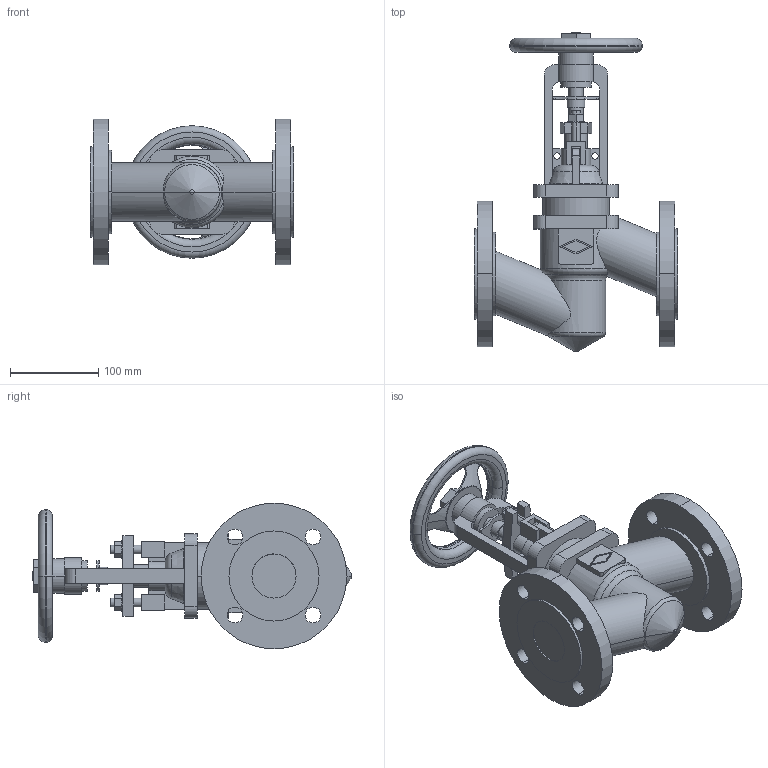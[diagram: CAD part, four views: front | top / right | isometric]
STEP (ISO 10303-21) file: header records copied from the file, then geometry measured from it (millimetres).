
FILE_DESCRIPTION(('OneSpaceDesigner STEP Export'),'2;1');
FILE_NAME('c000004283.stp','2010-05-05T10:04:34',(''),(''),'OneSpace Designer STEP processor for AP214 (Solid Model)','OneSpace Modeling 15.50B 03-Nov-2007 (C) CoCreate Software GmbH','');
FILE_SCHEMA(('AUTOMOTIVE_DESIGN { 1 0 10303 214 1 1 1 1 }'));
Length unit declared in the file: millimetre
Products named in the file (1): 1
Bounding box: 230 x 361.7 x 165 mm (x, y, z)
Volume: 2502382.9 mm3; surface area: 279020.2 mm2
Topology: 1 solids, 1 shells, 304 faces, 813 edges, 535 vertices
Faces by surface type: plane 145, cylinder 121, torus 24, cone 12, sphere 2
Entity records: 12103 total; most frequent: CARTESIAN_POINT 2431, ORIENTED_EDGE 1618, DIRECTION 1347, EDGE_CURVE 809, VERTEX_POINT 531, AXIS2_PLACEMENT_3D 462, VECTOR 423, LINE 423
